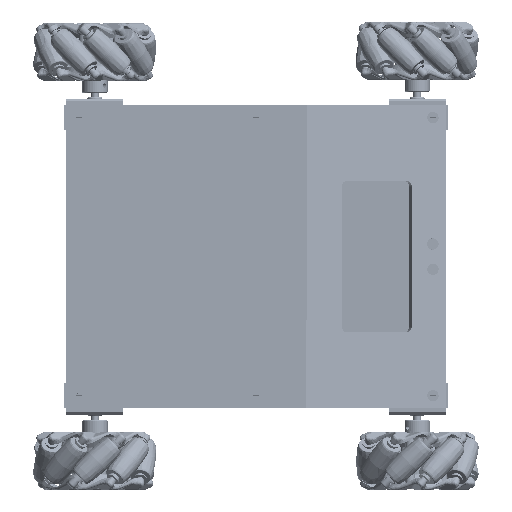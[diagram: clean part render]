
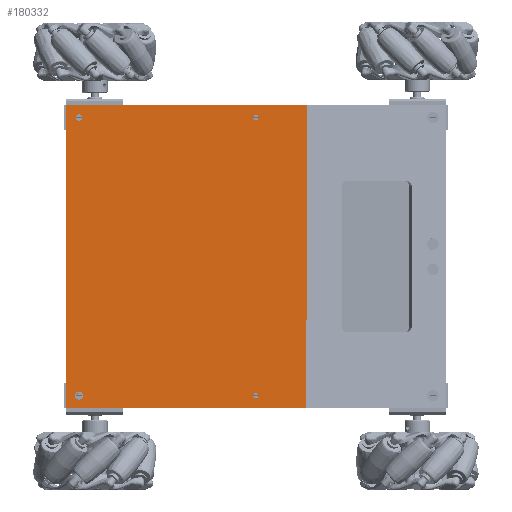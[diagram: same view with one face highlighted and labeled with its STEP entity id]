
A CAD part, front view. The second image highlights one B-rep face of the part: STEP entity #180332.
In plain terms, the highlighted planar face has unit normal (0, -1, 0) as drawn and (0, 0, 1) by its records, which use the part's own axes.
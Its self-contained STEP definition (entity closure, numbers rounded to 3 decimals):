
#15881=FACE_BOUND('',#37433,.T.);
#15882=FACE_BOUND('',#37434,.T.);
#15883=FACE_BOUND('',#37435,.T.);
#15884=FACE_BOUND('',#37436,.T.);
#26093=FACE_OUTER_BOUND('',#37432,.T.);
#37432=EDGE_LOOP('',(#163832,#163833,#163834,#163835));
#37433=EDGE_LOOP('',(#163836));
#37434=EDGE_LOOP('',(#163837));
#37435=EDGE_LOOP('',(#163838));
#37436=EDGE_LOOP('',(#163839));
#43345=CIRCLE('',#199018,2.5);
#43347=CIRCLE('',#199021,3.235);
#43349=CIRCLE('',#199024,2.1);
#43351=CIRCLE('',#199027,2.1);
#57468=LINE('',#445730,#71832);
#57471=LINE('',#445736,#71835);
#57474=LINE('',#445742,#71838);
#57477=LINE('',#445746,#71841);
#71832=VECTOR('',#245463,10.);
#71835=VECTOR('',#245468,10.);
#71838=VECTOR('',#245473,10.);
#71841=VECTOR('',#245478,10.);
#87777=VERTEX_POINT('',#445700);
#87779=VERTEX_POINT('',#445706);
#87781=VERTEX_POINT('',#445712);
#87783=VERTEX_POINT('',#445718);
#87787=VERTEX_POINT('',#445727);
#87788=VERTEX_POINT('',#445729);
#87790=VERTEX_POINT('',#445735);
#87792=VERTEX_POINT('',#445741);
#113229=EDGE_CURVE('',#87777,#87777,#43345,.T.);
#113232=EDGE_CURVE('',#87779,#87779,#43347,.T.);
#113235=EDGE_CURVE('',#87781,#87781,#43349,.T.);
#113238=EDGE_CURVE('',#87783,#87783,#43351,.T.);
#113243=EDGE_CURVE('',#87788,#87787,#57468,.T.);
#113246=EDGE_CURVE('',#87790,#87788,#57471,.T.);
#113249=EDGE_CURVE('',#87792,#87790,#57474,.T.);
#113252=EDGE_CURVE('',#87787,#87792,#57477,.T.);
#163832=ORIENTED_EDGE('',*,*,#113252,.T.);
#163833=ORIENTED_EDGE('',*,*,#113249,.T.);
#163834=ORIENTED_EDGE('',*,*,#113246,.T.);
#163835=ORIENTED_EDGE('',*,*,#113243,.T.);
#163836=ORIENTED_EDGE('',*,*,#113238,.T.);
#163837=ORIENTED_EDGE('',*,*,#113235,.T.);
#163838=ORIENTED_EDGE('',*,*,#113232,.T.);
#163839=ORIENTED_EDGE('',*,*,#113229,.T.);
#170064=PLANE('',#199033);
#180332=ADVANCED_FACE('',(#26093,#15881,#15882,#15883,#15884),#170064,.T.);
#199018=AXIS2_PLACEMENT_3D('',#445701,#245433,#245434);
#199021=AXIS2_PLACEMENT_3D('',#445707,#245440,#245441);
#199024=AXIS2_PLACEMENT_3D('',#445713,#245447,#245448);
#199027=AXIS2_PLACEMENT_3D('',#445719,#245454,#245455);
#199033=AXIS2_PLACEMENT_3D('',#445747,#245479,#245480);
#245433=DIRECTION('center_axis',(0.,0.,-1.));
#245434=DIRECTION('ref_axis',(-1.,0.,0.));
#245440=DIRECTION('center_axis',(0.,0.,-1.));
#245441=DIRECTION('ref_axis',(-1.,0.,0.));
#245447=DIRECTION('center_axis',(0.,0.,-1.));
#245448=DIRECTION('ref_axis',(-1.,0.,0.));
#245454=DIRECTION('center_axis',(0.,0.,-1.));
#245455=DIRECTION('ref_axis',(-1.,0.,0.));
#245463=DIRECTION('',(1.,0.,0.));
#245468=DIRECTION('',(0.,-1.,0.));
#245473=DIRECTION('',(-1.,0.,0.));
#245478=DIRECTION('',(0.,1.,0.));
#245479=DIRECTION('center_axis',(0.,0.,1.));
#245480=DIRECTION('ref_axis',(1.,0.,0.));
#445700=CARTESIAN_POINT('',(222.5,0.,5.));
#445701=CARTESIAN_POINT('Origin',(220.,0.,
5.));
#445706=CARTESIAN_POINT('',(3.235,0.,5.));
#445707=CARTESIAN_POINT('Origin',(0.,0.,
5.));
#445712=CARTESIAN_POINT('',(222.1,-140.,5.));
#445713=CARTESIAN_POINT('Origin',(220.,-140.,5.));
#445718=CARTESIAN_POINT('',(2.1,-140.,5.));
#445719=CARTESIAN_POINT('Origin',(0.,-140.,
5.));
#445727=CARTESIAN_POINT('',(230.,-180.,5.));
#445729=CARTESIAN_POINT('',(-10.,-180.,5.));
#445730=CARTESIAN_POINT('',(-10.,-180.,5.));
#445735=CARTESIAN_POINT('',(-10.,10.,5.));
#445736=CARTESIAN_POINT('',(-10.,10.,5.));
#445741=CARTESIAN_POINT('',(230.,10.,5.));
#445742=CARTESIAN_POINT('',(230.,10.,5.));
#445746=CARTESIAN_POINT('',(230.,-180.,5.));
#445747=CARTESIAN_POINT('Origin',(110.,-85.,5.));
